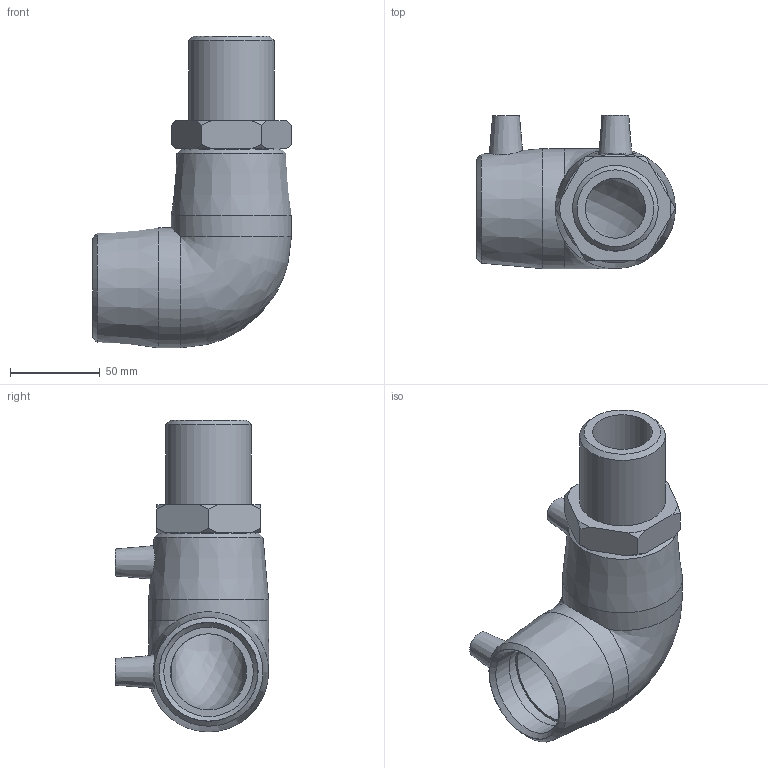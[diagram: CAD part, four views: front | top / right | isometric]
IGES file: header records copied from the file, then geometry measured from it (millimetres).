
Global section: file name: 492504050015N.ipt; native system: Autodesk Inventor 2015; preprocessor: unknown; author: KIM; date: 20200202.122350; units: millimetre
Bounding box: 111 x 85.5 x 174 mm (x, y, z)
Volume: 351985.7 mm3; surface area: 75859.4 mm2
Topology: 1 solids, 2 shells, 59 faces, 143 edges, 96 vertices
Faces by surface type: plane 22, cone 19, revolution 10, cylinder 7, bspline 1
Full cylindrical faces by diameter (mm): 4 x2, 47.803 x1, 50 x2, 67 x2
